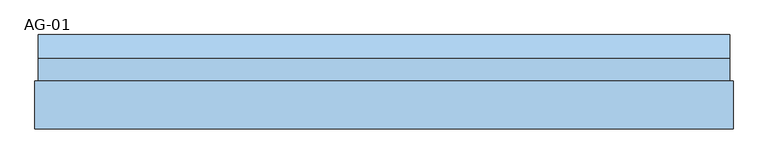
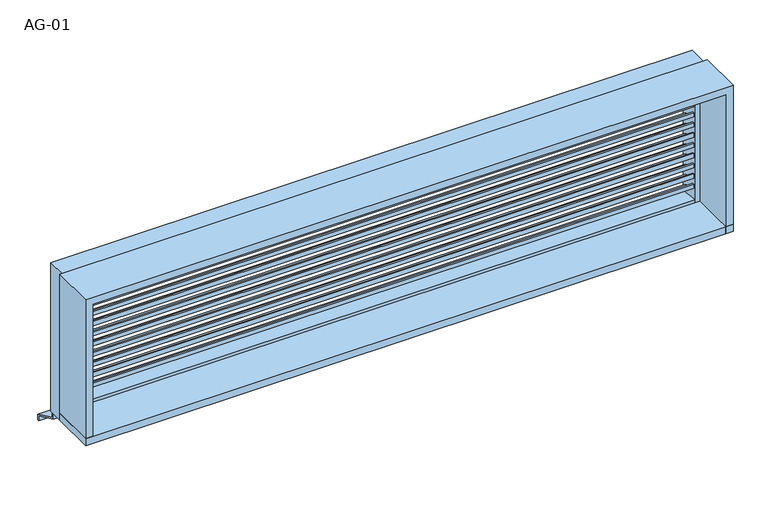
"""IFC4 building model written with IfcOpenShell, lengths in millimetres: window geometry, 営_単窓_ガラリ : AG-01."""

from ifc_helpers import new_model, si_unit, frame, origin, place, context, project, spatial, polyline, outline, extrude, source, transform, mapped, element, save


def ag_01_ca6aedc7(model_context):
    return source(origin(), model_context, "Body", "SweptSolid", [
        extrude(outline(polyline([(15.0, 1581.8857291), (15.0, 1563.6363636), (10.0, 1563.6363636), (10.0, 1578.6363636), (-35.0, 1598.6363636), (-35.0, 1613.6363636), (-30.0, 1613.6363636), (-30.0, 1601.8857291), (15.0, 1581.8857291)])), frame((-1050.0, 0.0, 0.0), z_axis=(1.0, 0.0, 0.0), x_axis=(0.0, 1.0, 0.0)), (0.0, 0.0, 1.0), 2100.0),
        extrude(outline(polyline([(15.0, 1545.5220927), (15.0, 1527.2727273), (10.0, 1527.2727273), (10.0, 1542.2727273), (-35.0, 1562.2727273), (-35.0, 1577.2727273), (-30.0, 1577.2727273), (-30.0, 1565.5220927), (15.0, 1545.5220927)])), frame((-1050.0, 0.0, 0.0), z_axis=(1.0, 0.0, 0.0), x_axis=(0.0, 1.0, 0.0)), (0.0, 0.0, 1.0), 2100.0),
        extrude(outline(polyline([(15.0, 1509.1584564), (15.0, 1490.9090909), (10.0, 1490.9090909), (10.0, 1505.9090909), (-35.0, 1525.9090909), (-35.0, 1540.9090909), (-30.0, 1540.9090909), (-30.0, 1529.1584564), (15.0, 1509.1584564)])), frame((-1050.0, 0.0, 0.0), z_axis=(1.0, 0.0, 0.0), x_axis=(0.0, 1.0, 0.0)), (0.0, 0.0, 1.0), 2100.0),
        extrude(outline(polyline([(15.0, 1472.79482), (15.0, 1454.5454545), (10.0, 1454.5454545), (10.0, 1469.5454545), (-35.0, 1489.5454545), (-35.0, 1504.5454545), (-30.0, 1504.5454545), (-30.0, 1492.79482), (15.0, 1472.79482)])), frame((-1050.0, 0.0, 0.0), z_axis=(1.0, 0.0, 0.0), x_axis=(0.0, 1.0, 0.0)), (0.0, 0.0, 1.0), 2100.0),
        extrude(outline(polyline([(15.0, 1436.4311836), (15.0, 1418.1818182), (10.0, 1418.1818182), (10.0, 1433.1818182), (-35.0, 1453.1818182), (-35.0, 1468.1818182), (-30.0, 1468.1818182), (-30.0, 1456.4311836), (15.0, 1436.4311836)])), frame((-1050.0, 0.0, 0.0), z_axis=(1.0, 0.0, 0.0), x_axis=(0.0, 1.0, 0.0)), (0.0, 0.0, 1.0), 2100.0),
        extrude(outline(polyline([(15.0, 1400.0675473), (15.0, 1381.8181818), (10.0, 1381.8181818), (10.0, 1396.8181818), (-35.0, 1416.8181818), (-35.0, 1431.8181818), (-30.0, 1431.8181818), (-30.0, 1420.0675473), (15.0, 1400.0675473)])), frame((-1050.0, 0.0, 0.0), z_axis=(1.0, 0.0, 0.0), x_axis=(0.0, 1.0, 0.0)), (0.0, 0.0, 1.0), 2100.0),
        extrude(outline(polyline([(15.0, 1363.7039109), (15.0, 1345.4545455), (10.0, 1345.4545455), (10.0, 1360.4545455), (-35.0, 1380.4545455), (-35.0, 1395.4545455), (-30.0, 1395.4545455), (-30.0, 1383.7039109), (15.0, 1363.7039109)])), frame((-1050.0, 0.0, 0.0), z_axis=(1.0, 0.0, 0.0), x_axis=(0.0, 1.0, 0.0)), (0.0, 0.0, 1.0), 2100.0),
        extrude(outline(polyline([(15.0, 1327.3402745), (15.0, 1309.0909091), (10.0, 1309.0909091), (10.0, 1324.0909091), (-35.0, 1344.0909091), (-35.0, 1359.0909091), (-30.0, 1359.0909091), (-30.0, 1347.3402745), (15.0, 1327.3402745)])), frame((-1050.0, 0.0, 0.0), z_axis=(1.0, 0.0, 0.0), x_axis=(0.0, 1.0, 0.0)), (0.0, 0.0, 1.0), 2100.0),
        extrude(outline(polyline([(15.0, 1290.9766382), (15.0, 1272.7272727), (10.0, 1272.7272727), (10.0, 1287.7272727), (-35.0, 1307.7272727), (-35.0, 1322.7272727), (-30.0, 1322.7272727), (-30.0, 1310.9766382), (15.0, 1290.9766382)])), frame((-1050.0, 0.0, 0.0), z_axis=(1.0, 0.0, 0.0), x_axis=(0.0, 1.0, 0.0)), (0.0, 0.0, 1.0), 2100.0),
        extrude(outline(polyline([(15.0, 1254.6130018), (15.0, 1236.3636364), (10.0, 1236.3636364), (10.0, 1251.3636364), (-35.0, 1271.3636364), (-35.0, 1286.3636364), (-30.0, 1286.3636364), (-30.0, 1274.6130018), (15.0, 1254.6130018)])), frame((-1050.0, 0.0, 0.0), z_axis=(1.0, 0.0, 0.0), x_axis=(0.0, 1.0, 0.0)), (0.0, 0.0, 1.0), 2100.0),
        extrude(outline(polyline([(15.0, 1618.2493654), (15.0, 1600.0), (10.0, 1600.0), (10.0, 1615.0), (-35.0, 1635.0), (-35.0, 1650.0), (-30.0, 1650.0), (-30.0, 1638.2493654), (15.0, 1618.2493654)])), frame((-1050.0, 0.0, 0.0), z_axis=(1.0, 0.0, 0.0), x_axis=(0.0, 1.0, 0.0)), (0.0, 0.0, 1.0), 2100.0),
        extrude(outline(polyline([(15.0, 1218.2493654), (15.0, 1200.0), (10.0, 1200.0), (10.0, 1215.0), (-35.0, 1235.0), (-35.0, 1250.0), (-30.0, 1250.0), (-30.0, 1238.2493654), (15.0, 1218.2493654)])), frame((-1050.0, 0.0, 0.0), z_axis=(1.0, 0.0, 0.0), x_axis=(0.0, 1.0, 0.0)), (0.0, 0.0, 1.0), 2100.0),
        extrude(outline(polyline([(1090.0, -195.0), (-1090.0, -195.0), (-1090.0, -45.0), (1090.0, -45.0), (1090.0, -195.0)])), frame((0.0, 0.0, 1165.0), z_axis=(0.0, 0.0, 1.0), x_axis=(1.0, 0.0, 0.0)), (0.0, 0.0, 1.0), 25.0),
        extrude(outline(polyline([(15.0, 1135.0), (100.0, 1095.0), (100.0, 1075.0), (95.0014518, 1075.0), (95.0014518, 1091.8262891), (10.0, 1131.8269723), (10.0, 1150.0), (15.0, 1150.0), (15.0, 1135.0)])), frame((-1080.0, 0.0, 0.0), z_axis=(1.0, 0.0, 0.0), x_axis=(0.0, 1.0, 0.0)), (0.0, 0.0, 1.0), 2160.0),
        extrude(outline(polyline([(1165.0, -1090.0), (1165.0, -1065.0), (1660.0, -1065.0), (1660.0, 1065.0), (1165.0, 1065.0), (1165.0, 1090.0), (1685.0, 1090.0), (1685.0, -1090.0), (1165.0, -1090.0)])), frame((0.0, -195.0, 0.0), z_axis=(0.0, 1.0, 0.0), x_axis=(0.0, 0.0, 1.0)), (0.0, 0.0, 1.0), 150.0),
        extrude(outline(polyline([(1150.0, -1080.0), (1150.0, -1050.0), (1650.0, -1050.0), (1650.0, 1050.0), (1150.0, 1050.0), (1150.0, 1080.0), (1680.0, 1080.0), (1680.0, -1080.0), (1150.0, -1080.0)])), frame((0.0, -45.0, 0.0), z_axis=(0.0, 1.0, 0.0), x_axis=(0.0, 0.0, 1.0)), (0.0, 0.0, 1.0), 70.0),
        extrude(outline(polyline([(-45.0, 1150.0), (-45.0, 1200.0), (25.0, 1190.6666667), (25.0, 1150.0), (-45.0, 1150.0)])), frame((-1050.0, 0.0, 0.0), z_axis=(1.0, 0.0, 0.0), x_axis=(0.0, 1.0, 0.0)), (0.0, 0.0, 1.0), 2100.0),
    ])


if __name__ == "__main__":
    model = new_model("IFC4")
    model_context = context("Model", 3, world=origin())
    ifc_project = project(units=[si_unit("LENGTHUNIT", "METRE", prefix="MILLI")], contexts=[model_context])
    site = spatial("IfcSite", under=ifc_project)
    building = spatial("IfcBuilding", under=site)
    placement = place(None, origin())
    ag_01_shape = ag_01_ca6aedc7(model_context)
    element("IfcWindow", 1, ObjectType="営_単窓_ガラリ : AG-01", at=placement, inside=building, context=model_context, shape_type="MappedRepresentation", body=[
        mapped(ag_01_shape, transform((0.0, 0.0, 0.0), x_axis=(1.0, 0.0, 0.0), y_axis=(0.0, 1.0, 0.0), z_axis=(0.0, 0.0, 1.0))),
    ])
    save(model, "model.ifc")
